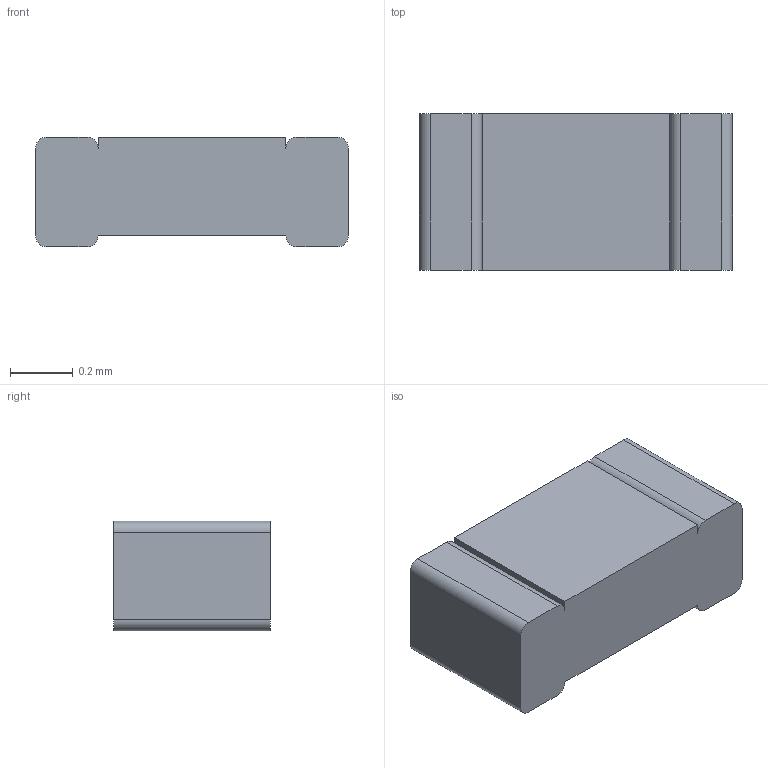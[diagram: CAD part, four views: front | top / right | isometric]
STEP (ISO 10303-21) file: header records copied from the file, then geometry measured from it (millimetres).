
FILE_DESCRIPTION(/* description */ ('STEP AP242 Edition 2','CAx-IF Rec.Pracs.---Representation and Presentation of Product Manufacturing Information (PMI)---4.0---2014-10-13','CAx-IF Rec.Pracs.---3D Tessellated Geometry---0.4---2014-09-14','2;1','CAx-IF Rec.Pracs.---User Defined Attributes---1.5---2016-08-15'),/* implementation_level */ '2;1');
FILE_NAME(/* name */ 'v2_assembly - R_0402_1005Metric_17',/* time_stamp */ '2026-05-19T16:26:06Z',/* author */ (''),/* organization */ (''),/* preprocessor_version */ 'ST-DEVELOPER v20',/* originating_system */ 'ONSHAPE BY PTC INC, 1.215',/* authorisation */ ' ');
FILE_SCHEMA (('AP242_MANAGED_MODEL_BASED_3D_ENGINEERING_MIM_LF { 1 0 10303 442 3 1 4 }'));
Length unit declared in the file: metre
Products named in the file (1): R_0402_1005Metric_17
Bounding box: 1 x 0.5 x 0.35 mm (x, y, z)
Volume: 0.2 mm3; surface area: 2 mm2
Topology: 1 solids, 1 shells, 20 faces, 54 edges, 36 vertices
Faces by surface type: plane 12, cylinder 8
Entity records: 686 total; most frequent: DIRECTION 112, CARTESIAN_POINT 111, ORIENTED_EDGE 108, EDGE_CURVE 54, LINE 38, VECTOR 38, AXIS2_PLACEMENT_3D 37, VERTEX_POINT 36
